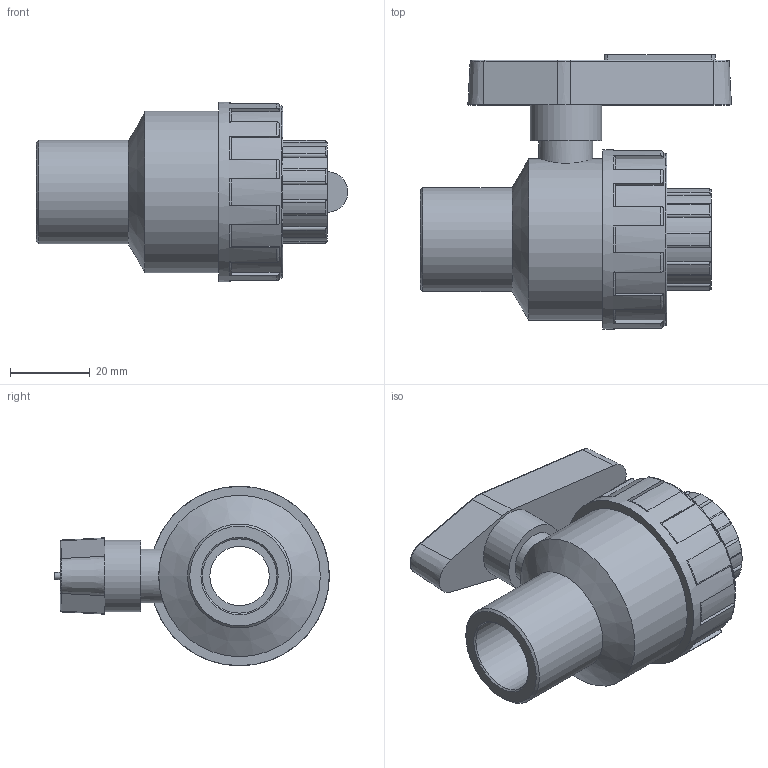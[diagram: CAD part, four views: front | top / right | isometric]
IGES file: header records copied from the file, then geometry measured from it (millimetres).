
Global section: file name: 11351005.ipt; native system: Autodesk Inventor 2015; preprocessor: unknown; author: KIM; date: 20171207.170441; units: millimetre
Bounding box: 78.07 x 68.85 x 45 mm (x, y, z)
Volume: 67073.9 mm3; surface area: 18218.2 mm2
Topology: 1 solids, 1 shells, 166 faces, 447 edges, 290 vertices
Faces by surface type: plane 64, cylinder 52, revolution 34, cone 16
Full cylindrical faces by diameter (mm): 13.5 x1, 18 x1, 26.083 x1, 40.5 x1, 43.2 x1, 45 x1
